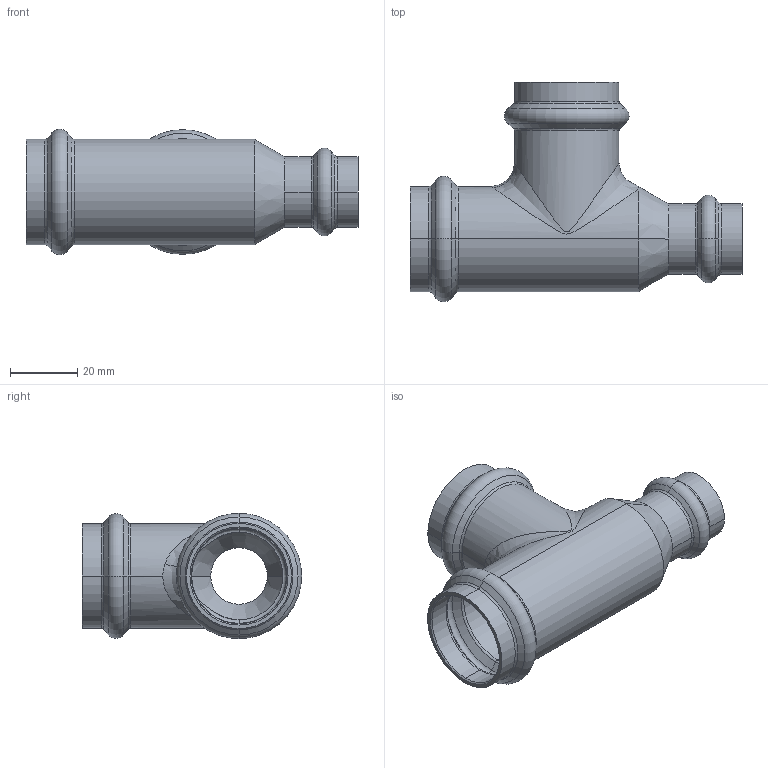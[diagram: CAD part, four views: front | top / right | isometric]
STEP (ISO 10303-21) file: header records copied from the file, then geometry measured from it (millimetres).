
FILE_DESCRIPTION (( 'STEP AP203' ), '1' );
FILE_NAME ('SP5130 Ø28-28-18.STEP', '2017-04-25T14:52:46', ( '' ), ( '' ), 'SwSTEP 2.0', 'SolidWorks 2016', '' );
FILE_SCHEMA (( 'CONFIG_CONTROL_DESIGN' ));
Length unit declared in the file: millimetre
Products named in the file (1): SP5130 Ø28-28-18
Bounding box: 98.5 x 65.1 x 37.2 mm (x, y, z)
Volume: 20636.2 mm3; surface area: 23946 mm2
Topology: 1 solids, 1 shells, 121 faces, 270 edges, 152 vertices
Faces by surface type: torus 43, cone 36, cylinder 33, plane 5, bspline 4
Entity records: 4953 total; most frequent: CARTESIAN_POINT 2130, DIRECTION 658, ORIENTED_EDGE 540, AXIS2_PLACEMENT_3D 296, EDGE_CURVE 270, CIRCLE 178, VERTEX_POINT 152, EDGE_LOOP 126
